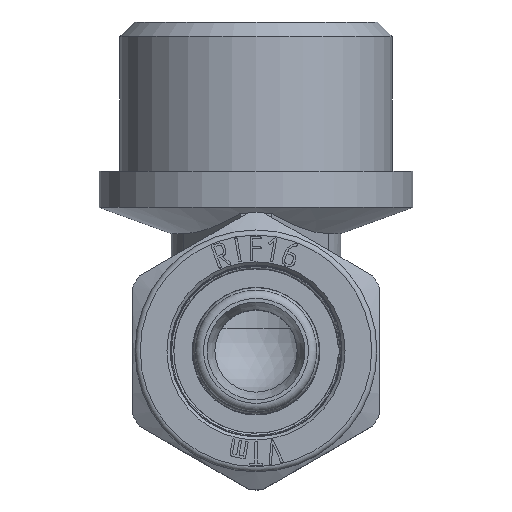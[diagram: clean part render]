
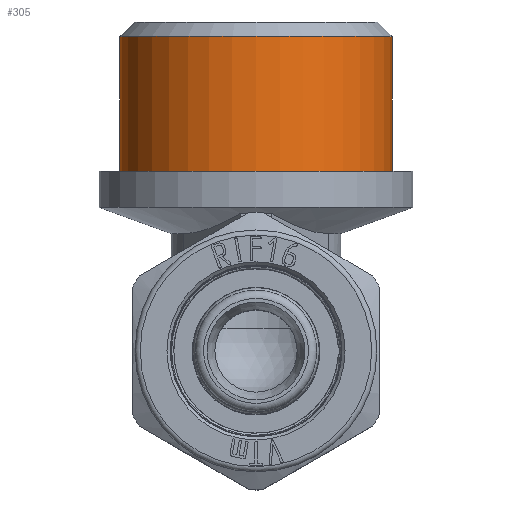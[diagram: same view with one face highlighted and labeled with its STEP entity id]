
A CAD part, top view. The second image highlights one B-rep face of the part: STEP entity #305.
In plain terms, the highlighted cylindrical face has radius 13.22 mm (diameter 26.441 mm), a full revolution.
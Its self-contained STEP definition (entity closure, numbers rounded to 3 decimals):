
#305=ADVANCED_FACE('',(#2242,#2244),#2246,.T.);
#2242=FACE_OUTER_BOUND('',#2243,.T.);
#2243=EDGE_LOOP('',(#5326));
#2244=FACE_OUTER_BOUND('',#2245,.T.);
#2245=EDGE_LOOP('',(#5327));
#2246=CYLINDRICAL_SURFACE('',#2247,13.221);
#2247=AXIS2_PLACEMENT_3D('',#2248,#2249,#2250);
#2248=CARTESIAN_POINT('',(0.,17.5,0.));
#2249=DIRECTION('',(0.,1.,0.));
#2250=DIRECTION('',(-1.,0.,0.));
#5326=ORIENTED_EDGE('',*,*,#7282,.F.);
#5327=ORIENTED_EDGE('',*,*,#7139,.F.);
#7139=EDGE_CURVE('',#8737,#8737,#8738,.F.);
#7282=EDGE_CURVE('',#9020,#9020,#9021,.T.);
#8737=VERTEX_POINT('',#13211);
#8738=CIRCLE('',#13212,13.221);
#9020=VERTEX_POINT('',#13786);
#9021=CIRCLE('',#13787,13.221);
#13211=CARTESIAN_POINT('',(-13.221,17.5,0.));
#13212=AXIS2_PLACEMENT_3D('',#13213,#13214,#13215);
#13213=CARTESIAN_POINT('',(0.,17.5,0.));
#13214=DIRECTION('',(0.,1.,0.));
#13215=DIRECTION('',(-1.,0.,0.));
#13786=CARTESIAN_POINT('',(-13.221,30.6,0.));
#13787=AXIS2_PLACEMENT_3D('',#13788,#13789,#13790);
#13788=CARTESIAN_POINT('',(0.,30.6,0.));
#13789=DIRECTION('',(0.,1.,0.));
#13790=DIRECTION('',(-1.,0.,0.));
